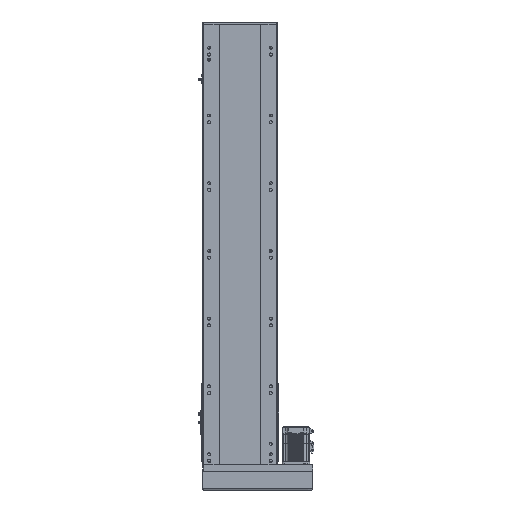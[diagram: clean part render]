
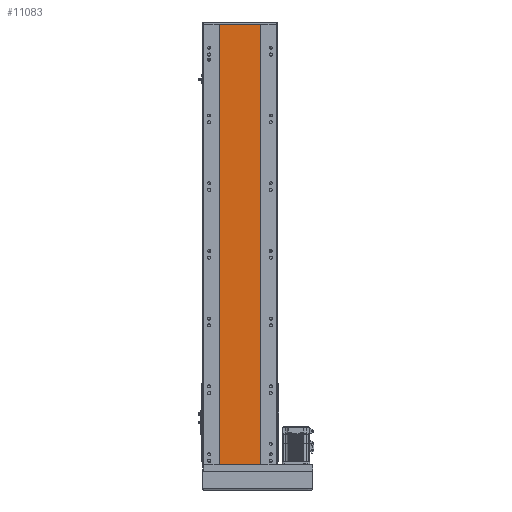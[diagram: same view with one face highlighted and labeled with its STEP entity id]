
A CAD part, front view. The second image highlights one B-rep face of the part: STEP entity #11083.
In plain terms, the highlighted planar face has unit normal (0, -1, 0).
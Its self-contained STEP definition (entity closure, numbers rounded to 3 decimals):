
#444 = EDGE_CURVE ( 'NONE', #25368, #31514, #28817, .T. ) ;
#1292 = CARTESIAN_POINT ( 'NONE',  ( 551.58, 155.016, 1301. ) ) ;
#4313 = CARTESIAN_POINT ( 'NONE',  ( 551.58, 155.016, 0. ) ) ;
#4662 = DIRECTION ( 'NONE',  ( 1., 0., 0. ) ) ;
#4771 = CARTESIAN_POINT ( 'NONE',  ( 432.408, 155.016, 0. ) ) ;
#4958 = DIRECTION ( 'NONE',  ( 0., 0., -1. ) ) ;
#6817 = VECTOR ( 'NONE', #21811, 1000. ) ;
#7591 = DIRECTION ( 'NONE',  ( 0., 0., 1. ) ) ;
#7612 = CARTESIAN_POINT ( 'NONE',  ( 0., 155.016, 1301. ) ) ;
#11083 = ADVANCED_FACE ( 'NONE', ( #17306 ), #41643, .F. ) ;
#14483 = ORIENTED_EDGE ( 'NONE', *, *, #32133, .T. ) ;
#15065 = LINE ( 'NONE', #7612, #29841 ) ;
#17092 = CARTESIAN_POINT ( 'NONE',  ( 551.58, 155.016, 1301. ) ) ;
#17306 = FACE_OUTER_BOUND ( 'NONE', #38045, .T. ) ;
#21131 = CARTESIAN_POINT ( 'NONE',  ( 0., 155.016, 1301. ) ) ;
#21811 = DIRECTION ( 'NONE',  ( 0., 0., -1. ) ) ;
#21908 = VERTEX_POINT ( 'NONE', #4771 ) ;
#25368 = VERTEX_POINT ( 'NONE', #17092 ) ;
#27635 = ORIENTED_EDGE ( 'NONE', *, *, #444, .F. ) ;
#28643 = ORIENTED_EDGE ( 'NONE', *, *, #37004, .T. ) ;
#28817 = LINE ( 'NONE', #1292, #6817 ) ;
#29135 = VERTEX_POINT ( 'NONE', #29193 ) ;
#29193 = CARTESIAN_POINT ( 'NONE',  ( 432.408, 155.016, 1301. ) ) ;
#29841 = VECTOR ( 'NONE', #4662, 1000. ) ;
#30732 = VECTOR ( 'NONE', #4958, 1000. ) ;
#31514 = VERTEX_POINT ( 'NONE', #4313 ) ;
#31755 = DIRECTION ( 'NONE',  ( 0., 1., 0. ) ) ;
#32133 = EDGE_CURVE ( 'NONE', #21908, #31514, #44136, .T. ) ;
#33586 = DIRECTION ( 'NONE',  ( 1., 0., 0. ) ) ;
#35072 = AXIS2_PLACEMENT_3D ( 'NONE', #21131, #31755, #7591 ) ;
#35896 = LINE ( 'NONE', #39929, #30732 ) ;
#36181 = VECTOR ( 'NONE', #33586, 1000. ) ;
#37004 = EDGE_CURVE ( 'NONE', #29135, #21908, #35896, .T. ) ;
#38045 = EDGE_LOOP ( 'NONE', ( #14483, #27635, #39729, #28643 ) ) ;
#39729 = ORIENTED_EDGE ( 'NONE', *, *, #42977, .F. ) ;
#39929 = CARTESIAN_POINT ( 'NONE',  ( 432.408, 155.016, 1301. ) ) ;
#41643 = PLANE ( 'NONE',  #35072 ) ;
#42977 = EDGE_CURVE ( 'NONE', #29135, #25368, #15065, .T. ) ;
#43914 = CARTESIAN_POINT ( 'NONE',  ( 0., 155.016, 0. ) ) ;
#44136 = LINE ( 'NONE', #43914, #36181 ) ;
